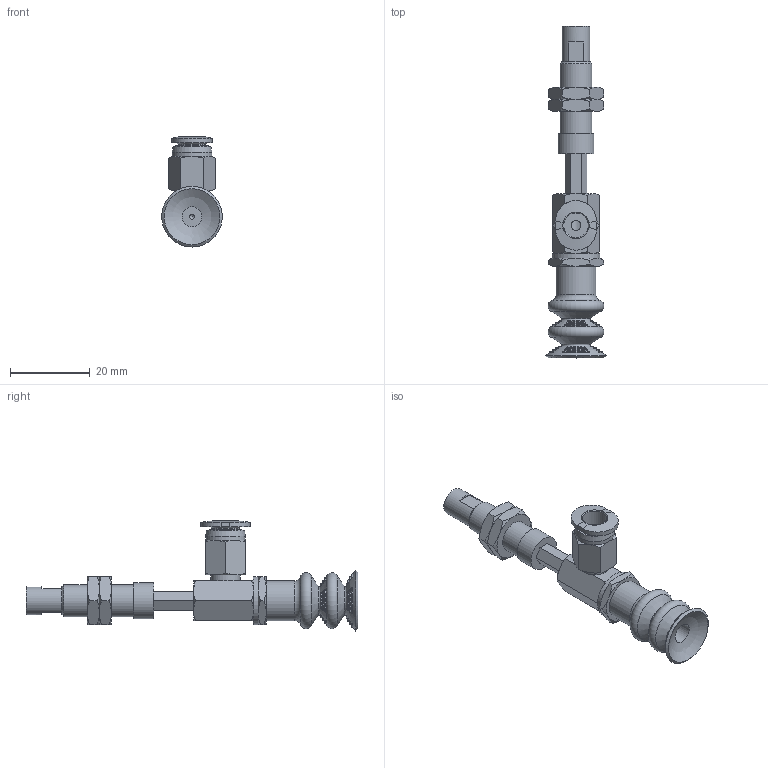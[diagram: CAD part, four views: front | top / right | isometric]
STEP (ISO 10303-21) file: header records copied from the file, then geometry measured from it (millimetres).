
FILE_DESCRIPTION(('STEP AP203'),'1');
FILE_NAME('-O.stp','2025-04-04T01:16:25',(' '),(' '),'Spatial InterOp 3D',' ',' ');
FILE_SCHEMA(('CONFIG_CONTROL_DESIGN'));
Length unit declared in the file: millimetre
Products named in the file (8): BNABPCYH-15-10-※-O; Adapter_napc-15-T; Connector_h-15-10; Nut napc_h-15-10; NAPCTH-15-10-FBODY; NAPCTH-15-10-MBODY; BPCG-15-※; PC-C_06-M5
Assembly tree (8 placements, depth 2):
  BNABPCYH-15-10-※-O
    Adapter_napc-15-T
    Connector_h-15-10
    Nut napc_h-15-10  x2
    NAPCTH-15-10-FBODY
    NAPCTH-15-10-MBODY
    BPCG-15-※
    PC-C_06-M5
Bounding box: 15.2 x 83.2 x 27.58 mm (x, y, z)
Volume: 5600.2 mm3; surface area: 6872.6 mm2
Topology: 7 solids, 10 shells, 298 faces, 832 edges, 532 vertices
Faces by surface type: plane 87, cone 84, sphere 58, torus 36, cylinder 26, bspline 4, revolution 3
Full cylindrical faces by diameter (mm): 1.25 x1, 4 x2, 4.134 x3, 5 x7, 7 x2, 7.188 x2, 7.4 x1, 8 x1, 8.2 x1, 9 x1, 10 x2, 12 x1
Entity records: 8611 total; most frequent: CARTESIAN_POINT 2539, DIRECTION 1213, ORIENTED_EDGE 1062, AXIS2_PLACEMENT_3D 555, EDGE_CURVE 533, EDGE_LOOP 384, VERTEX_POINT 372, CIRCLE 277
